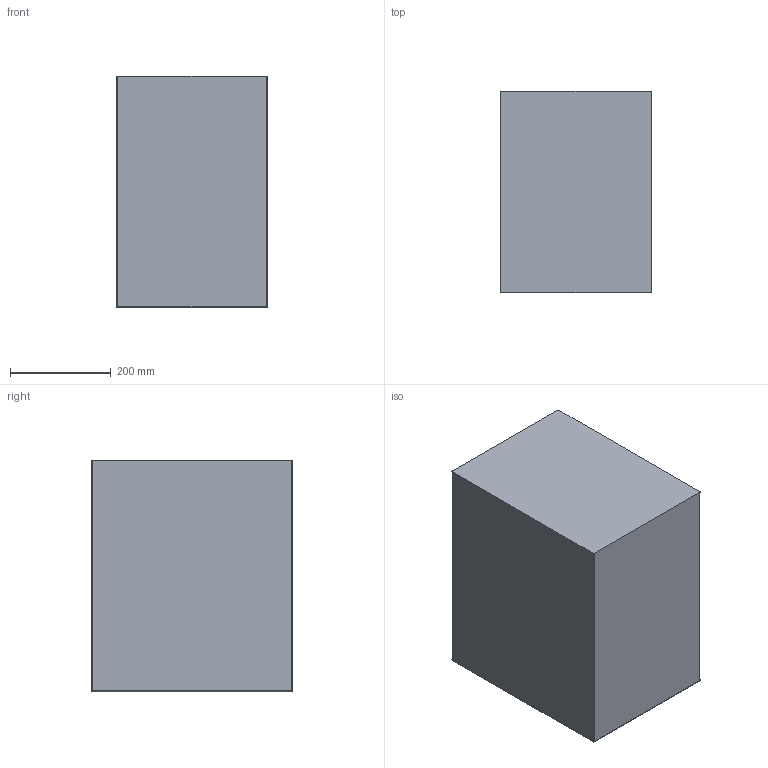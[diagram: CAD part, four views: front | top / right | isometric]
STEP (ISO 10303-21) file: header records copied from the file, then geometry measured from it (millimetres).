
FILE_DESCRIPTION(('CATIA V5 STEP Exchange'),'2;1');
FILE_NAME('C:\Users\Luca\Downloads\mobili next\2062\3D_2062.stp','2023-01-31T14:14:56+00:00',('none'),('none'),'CATIA Version 5 Release 19 SP 5 (IN-10)','CATIA V5 STEP AP214','none');
FILE_SCHEMA(('AUTOMOTIVE_DESIGN { 1 0 10303 214 1 1 1 1 }'));
Length unit declared in the file: millimetre
Products named in the file (1): ART. 2062
Bounding box: 300 x 400 x 460 mm (x, y, z)
Volume: 16716107.6 mm3; surface area: 1839558 mm2
Topology: 3 solids, 3 shells, 181 faces, 410 edges, 214 vertices
Faces by surface type: cylinder 69, plane 42, bspline 38, sphere 28, torus 4
Entity records: 7139 total; most frequent: CARTESIAN_POINT 3710, ORIENTED_EDGE 776, DIRECTION 516, EDGE_CURVE 388, AXIS2_PLACEMENT_3D 247, VERTEX_POINT 214, EDGE_LOOP 182, ADVANCED_FACE 181
